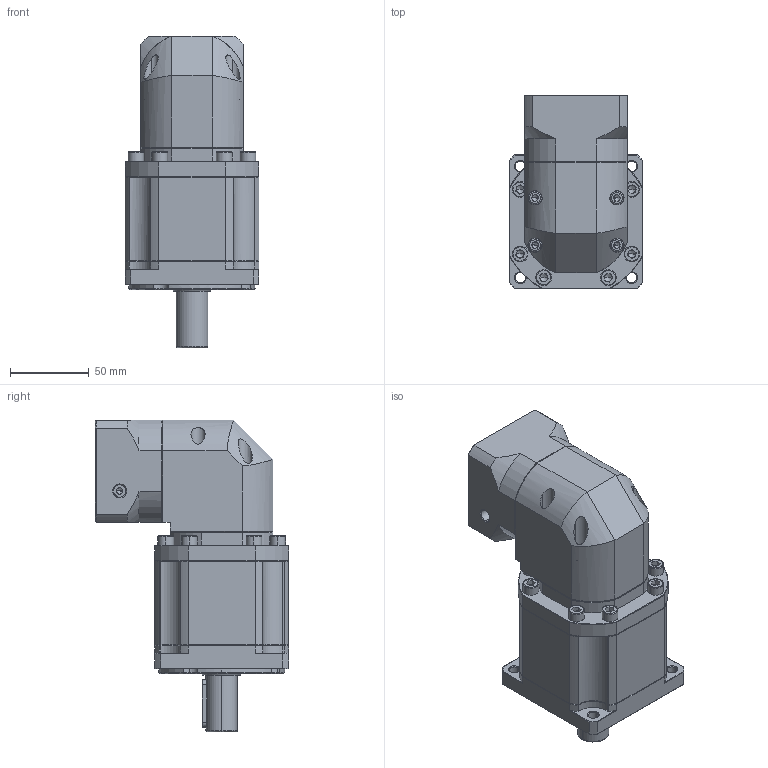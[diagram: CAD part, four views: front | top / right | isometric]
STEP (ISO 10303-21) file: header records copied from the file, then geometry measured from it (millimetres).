
FILE_DESCRIPTION (( 'STEP AP214' ), '1' );
FILE_NAME ('ZBR090-D20-L3-P2-11-60-75-M5.step', '2023-08-19T03:56:18', ( '' ), ( '' ), 'SwSTEP 2.0', 'SolidWorks 2016', '' );
FILE_SCHEMA (( 'AUTOMOTIVE_DESIGN' ));
Length unit declared in the file: millimetre
Products named in the file (1): ZBR090-D20-L3-P2-11-60-75-M5
Bounding box: 85 x 122.7 x 198 mm (x, y, z)
Volume: 936234.6 mm3; surface area: 106726 mm2
Topology: 5 solids, 5 shells, 2438 faces, 6456 edges, 4120 vertices
Faces by surface type: plane 1178, cylinder 445, bspline 438, cone 369, torus 8
Entity records: 129919 total; most frequent: CARTESIAN_POINT 46096, ORIENTED_EDGE 12820, DIRECTION 10272, EDGE_CURVE 6410, VERTEX_POINT 4120, LINE 4034, VECTOR 4034, AXIS2_PLACEMENT_3D 3119
